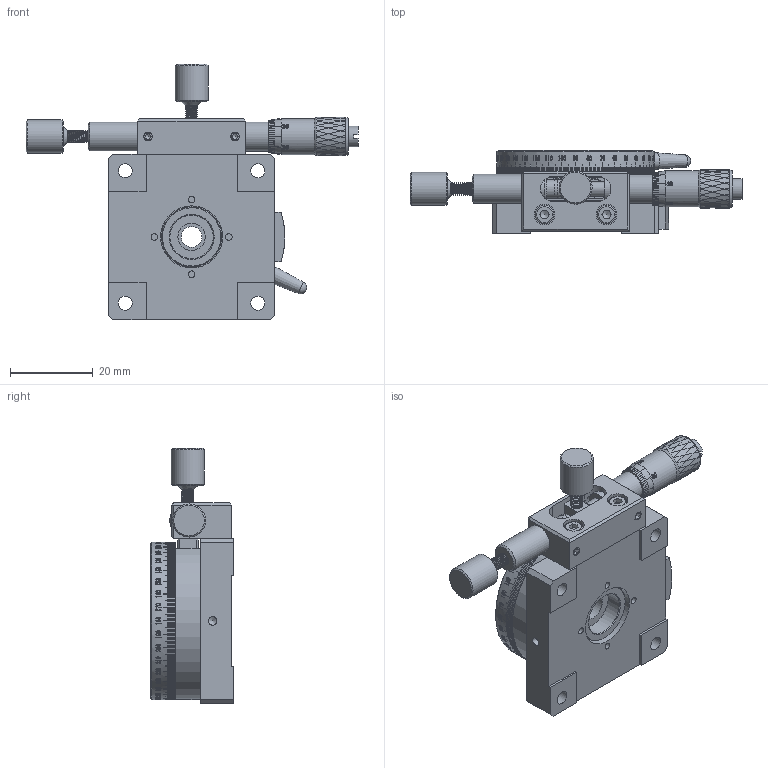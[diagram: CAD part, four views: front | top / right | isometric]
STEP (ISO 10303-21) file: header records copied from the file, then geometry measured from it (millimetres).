
FILE_DESCRIPTION (( 'STEP AP203' ), '1' );
FILE_NAME ('BPR40.STEP', '2024-07-09T11:28:40', ( 'Windows User' ), ( 'P R C' ), 'SwSTEP 2.0', 'SolidWorks 2024', '' );
FILE_SCHEMA (( 'CONFIG_CONTROL_DESIGN' ));
Products named in the file (1): BPR40
Bounding box: 80.2 x 20 x 61.7 mm (x, y, z)
Volume: 28789.4 mm3; surface area: 22457.2 mm2
Topology: 22 solids, 22 shells, 2590 faces, 8172 edges, 5869 vertices
Faces by surface type: plane 1697, cylinder 380, bspline 333, cone 172, torus 6, sphere 2
Full cylindrical faces by diameter (mm): 1.6 x16, 2 x4, 2.05 x8, 2.4 x4, 2.5 x12, 2.8 x2, 2.9 x3, 3 x1, 3.4 x4, 3.5 x2, 4 x4, 4.1 x1, 4.3 x4, 4.5 x4, 4.7 x1, 5 x5, 5.7 x1, 6 x9, 6.6 x1, 7 x3, 8 x4, 8.7 x1, 10.5 x1, 10.9 x1, 11.5 x3, 14.5 x1, 15 x1, 23.5 x1, 23.7 x1, 24 x1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
Entity records: 131659 total; most frequent: CARTESIAN_POINT 64308, ORIENTED_EDGE 15850, DIRECTION 10998, EDGE_CURVE 7925, VERTEX_POINT 5809, VECTOR 4012, LINE 4012, AXIS2_PLACEMENT_3D 3493
